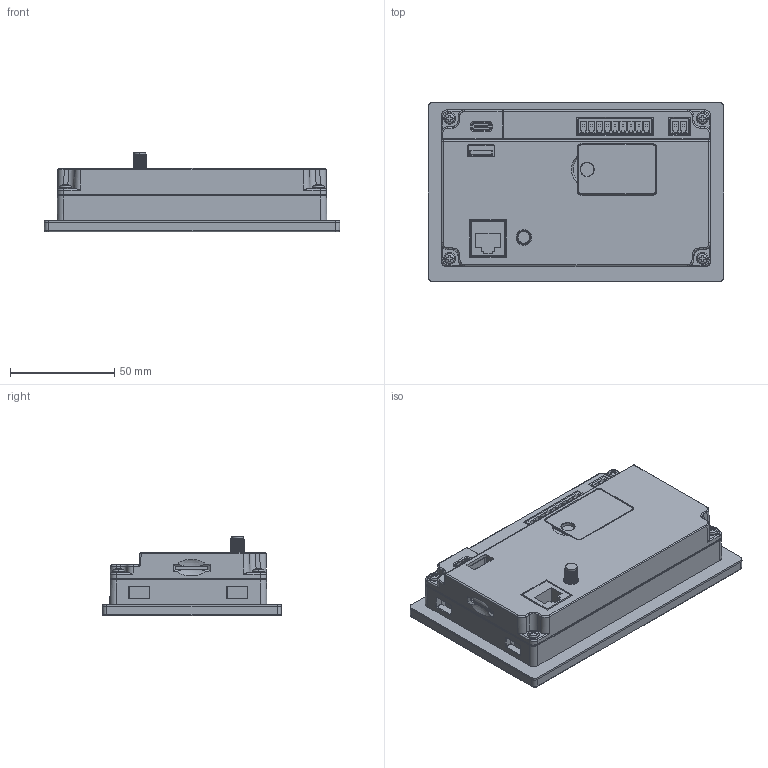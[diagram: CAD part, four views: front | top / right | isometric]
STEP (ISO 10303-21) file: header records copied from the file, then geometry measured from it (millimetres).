
FILE_DESCRIPTION((''),'2;1');
FILE_NAME('P0168_68','2024-05-14T14:43:18',('Administrator'),(''),'CREO PARAMETRIC BY PTC INC, 2018050','CREO PARAMETRIC BY PTC INC, 2018050','');
FILE_SCHEMA(('CONFIG_CONTROL_DESIGN'));
Length unit declared in the file: millimetre
Products named in the file (1): P0168_68
Bounding box: 142 x 86 x 38.4 mm (x, y, z)
Volume: 288982.5 mm3; surface area: 42812.5 mm2
Topology: 1 solids, 1 shells, 753 faces, 1922 edges, 1222 vertices
Faces by surface type: plane 495, cylinder 148, bspline 41, torus 36, cone 23, sphere 10
Entity records: 26871 total; most frequent: CARTESIAN_POINT 9000, ORIENTED_EDGE 3828, DIRECTION 3411, EDGE_CURVE 1914, VECTOR 1389, LINE 1389, VERTEX_POINT 1222, AXIS2_PLACEMENT_3D 1011
